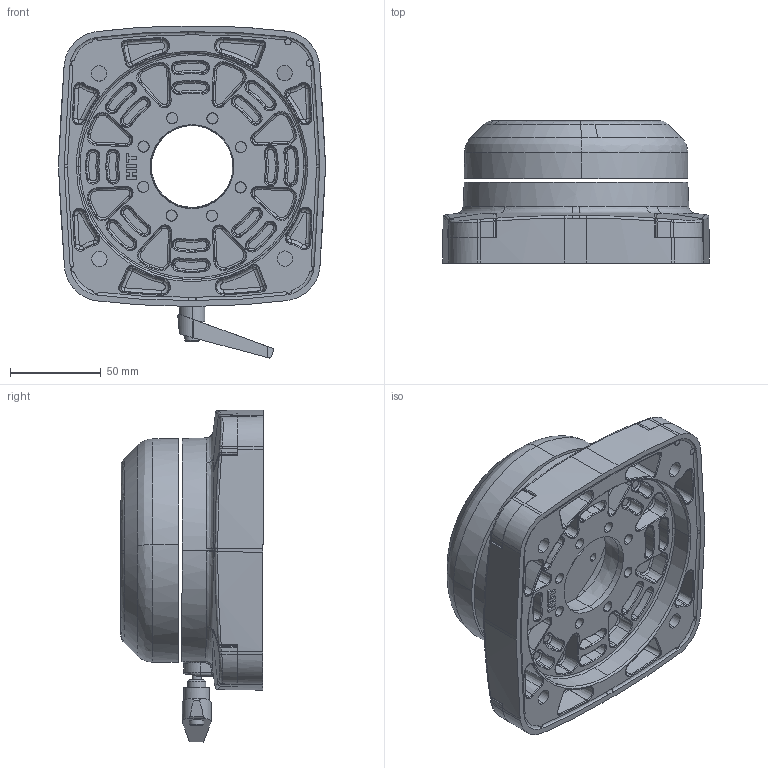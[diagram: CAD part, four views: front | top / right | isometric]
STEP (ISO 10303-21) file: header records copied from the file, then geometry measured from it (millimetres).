
FILE_DESCRIPTION (( 'STEP AP203' ), '1' );
FILE_NAME ('TP.060.1634.STEP', '2026-09-30T08:54:48', ( '' ), ( '' ), 'SwSTEP 2.0', 'SolidWorks 2015', '' );
FILE_SCHEMA (( 'CONFIG_CONTROL_DESIGN' ));
Length unit declared in the file: millimetre
Products named in the file (4): TP.060.1634; TP.060.Disk; TP.060.Serrated Washer; TP.060.600
Assembly tree (3 placements, depth 2):
  TP.060.1634
    TP.060.600
    TP.060.Serrated Washer
    TP.060.Disk
Bounding box: 146.69 x 78.31 x 182.44 mm (x, y, z)
Volume: 484978.2 mm3; surface area: 148936.1 mm2
Topology: 4 solids, 11 shells, 1551 faces, 3877 edges, 2373 vertices
Faces by surface type: bspline 816, cone 264, cylinder 213, plane 173, torus 85
Entity records: 96332 total; most frequent: CARTESIAN_POINT 65403, ORIENTED_EDGE 7690, DIRECTION 4208, EDGE_CURVE 3845, VERTEX_POINT 2373, B_SPLINE_CURVE_WITH_KNOTS 2068, AXIS2_PLACEMENT_3D 1729, EDGE_LOOP 1662
